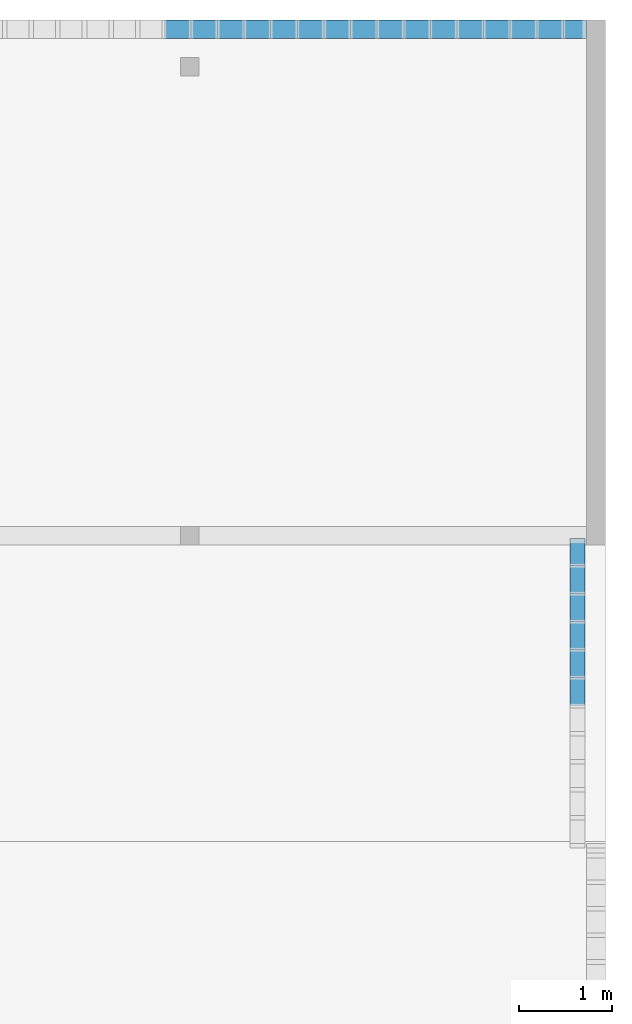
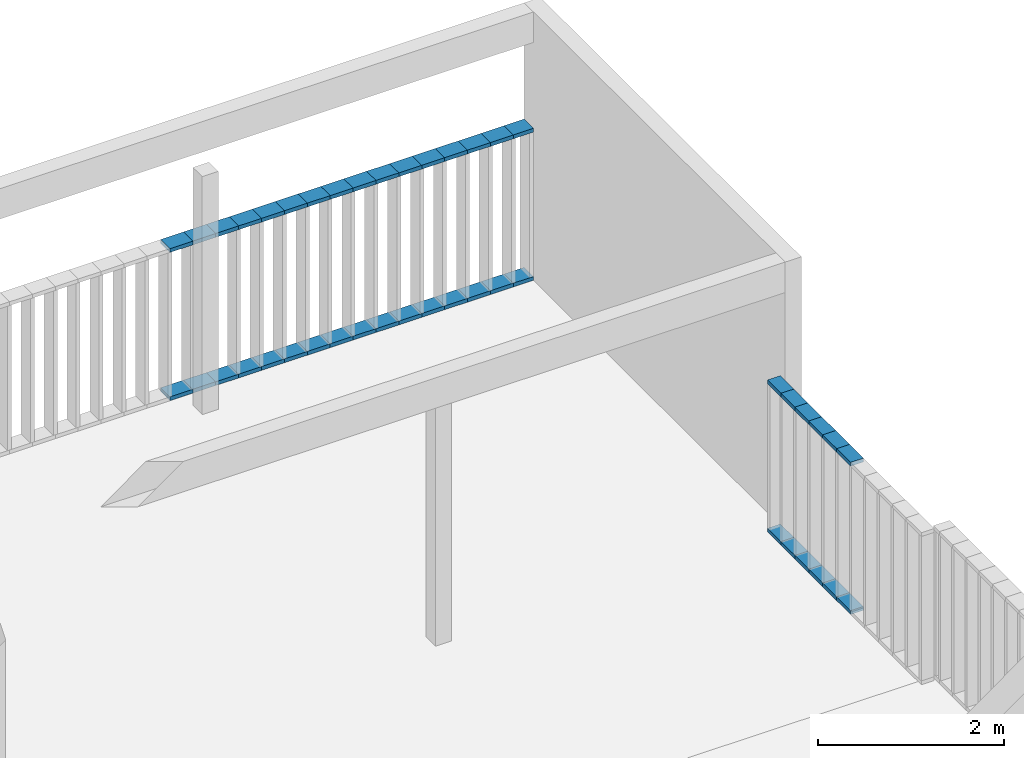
# One storey, part 57 of 240: 44 members, 2 elements without a shape of their own.
"""IFC2X3 building model written with IfcOpenShell, lengths in centimetres."""

from ifc_helpers import new_model, entity, si_unit, converted_unit, derived_unit, direction, frame, origin, origin_2d_with_axis, place, context, subcontext, project, spatial, rectangle, extrude, source, transform, mapped, material, type_object, type_shapes, element, aggregate, save


model = new_model("IFC2X3")

# Units and contexts
model_context = context("Model", 3, precision=0.001, world=origin(), true_north=direction((6.12303176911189e-17, 1.0)))
body_context = subcontext(model_context, "Body", "Model", "MODEL_VIEW")
ifc_project = project(units=[si_unit("LENGTHUNIT", "METRE", prefix="CENTI"), si_unit("AREAUNIT", "SQUARE_METRE"), si_unit("VOLUMEUNIT", "CUBIC_METRE"), converted_unit("PLANEANGLEUNIT", "DEGREE", entity("IfcRatioMeasure", 0.0174532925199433), si_unit("PLANEANGLEUNIT", "RADIAN"), dimensions=[0, 0, 0, 0, 0, 0, 0]), si_unit("MASSUNIT", "GRAM", prefix="KILO"), derived_unit("MASSDENSITYUNIT", [(si_unit("MASSUNIT", "GRAM", prefix="KILO"), 1), (si_unit("LENGTHUNIT", "METRE"), -3)]), si_unit("TIMEUNIT", "SECOND"), si_unit("FREQUENCYUNIT", "HERTZ"), si_unit("THERMODYNAMICTEMPERATUREUNIT", "DEGREE_CELSIUS"), derived_unit("THERMALTRANSMITTANCEUNIT", [(si_unit("MASSUNIT", "GRAM", prefix="KILO"), 1), (si_unit("THERMODYNAMICTEMPERATUREUNIT", "KELVIN"), -1), (si_unit("TIMEUNIT", "SECOND"), -3)]), derived_unit("VOLUMETRICFLOWRATEUNIT", [(si_unit("LENGTHUNIT", "METRE"), 3), (si_unit("TIMEUNIT", "SECOND"), -1)]), si_unit("ELECTRICCURRENTUNIT", "AMPERE"), si_unit("ELECTRICVOLTAGEUNIT", "VOLT"), si_unit("POWERUNIT", "WATT"), si_unit("FORCEUNIT", "NEWTON", prefix="KILO"), si_unit("ILLUMINANCEUNIT", "LUX"), si_unit("LUMINOUSFLUXUNIT", "LUMEN"), si_unit("LUMINOUSINTENSITYUNIT", "CANDELA"), derived_unit("USERDEFINED", [(si_unit("MASSUNIT", "GRAM", prefix="KILO"), -1), (si_unit("LENGTHUNIT", "METRE"), -2), (si_unit("TIMEUNIT", "SECOND"), 3), (si_unit("LUMINOUSFLUXUNIT", "LUMEN"), 1)]), derived_unit("LINEARVELOCITYUNIT", [(si_unit("LENGTHUNIT", "METRE"), 1), (si_unit("TIMEUNIT", "SECOND"), -1)]), si_unit("PRESSUREUNIT", "PASCAL"), derived_unit("USERDEFINED", [(si_unit("LENGTHUNIT", "METRE"), -2), (si_unit("MASSUNIT", "GRAM", prefix="KILO"), 1), (si_unit("TIMEUNIT", "SECOND"), -2)])], contexts=[model_context])

# Site, building, storey
site_placement = place(None, frame((-2781.94577612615, 7442.24238424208, 0.0)))
site = spatial("IfcSite", under=ifc_project, at=site_placement, Name="Default", CompositionType="ELEMENT")
building_placement = place(site_placement, origin())
building = spatial("IfcBuilding", under=site, at=building_placement, CompositionType="ELEMENT")
storey_placement = place(building_placement, origin())
storey = spatial("IfcBuildingStorey", under=building, at=storey_placement, Name="N00 - COO", CompositionType="ELEMENT", Elevation=0.0)

# Curtain wall, members
curtain_wall_type_1 = type_object("IfcCurtainWallType", Name="Mur-rideau:SR-Clôture", PredefinedType="NOTDEFINED")
curtain_wall_1_placement = place(building_placement, origin())
curtain_wall_1 = element("IfcCurtainWall", 1, at=curtain_wall_1_placement, inside=storey, type_object=curtain_wall_type_1, Name="Mur-rideau:SR-Clôture", ObjectType="Mur-rideau:SR-Clôture")
ifc_material = material(Name="Aluminium")
member_type_1 = type_object("IfcMemberType", Name="Epine nord (200x50 mm)", PredefinedType="MEMBER")
shared_shape_1 = source(origin(), body_context, "Body", "SweptSolid", [
    extrude(rectangle(XDim=20.0, YDim=5.0, at=origin_2d_with_axis()), frame((-2.5, 0.0, -28.5000000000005), z_axis=(0.0, 0.0, 1.0), x_axis=(0.0, -1.0, 0.0)), (0.0, 0.0, 1.0), 28.5000000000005),
])
type_shapes(member_type_1, [shared_shape_1])
member_1_placement = place(building_placement, frame((-833.999879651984, 40.0, 200.0), z_axis=(1.0, 0.0, 0.0), x_axis=(0.0, 0.0, 1.0)))
member_1 = element("IfcMember", 2, at=member_1_placement, type_object=member_type_1, material=ifc_material, Name="Meneau rectangulaire:Epine nord (200x50 mm)", ObjectType="Meneau rectangulaire:Epine nord (200x50 mm)", context=body_context, shape_type="MappedRepresentation", body=[
    mapped(shared_shape_1, transform((0.0, 0.0, 0.0), scale=1.0)),
])
member_2_placement = place(building_placement, frame((-805.499879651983, 40.0, 200.0), z_axis=(1.0, 0.0, 0.0), x_axis=(0.0, 0.0, 1.0)))
member_2 = element("IfcMember", 3, at=member_2_placement, type_object=member_type_1, material=ifc_material, Name="Meneau rectangulaire:Epine nord (200x50 mm)", ObjectType="Meneau rectangulaire:Epine nord (200x50 mm)", context=body_context, shape_type="MappedRepresentation", body=[
    mapped(shared_shape_1, transform((0.0, 0.0, 0.0), scale=1.0)),
])
member_3_placement = place(building_placement, frame((-776.999879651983, 40.0, 200.0), z_axis=(1.0, 0.0, 0.0), x_axis=(0.0, 0.0, 1.0)))
member_3 = element("IfcMember", 4, at=member_3_placement, type_object=member_type_1, material=ifc_material, Name="Meneau rectangulaire:Epine nord (200x50 mm)", ObjectType="Meneau rectangulaire:Epine nord (200x50 mm)", context=body_context, shape_type="MappedRepresentation", body=[
    mapped(shared_shape_1, transform((0.0, 0.0, 0.0), scale=1.0)),
])
member_4_placement = place(building_placement, frame((-748.499879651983, 40.0, 200.0), z_axis=(1.0, 0.0, 0.0), x_axis=(0.0, 0.0, 1.0)))
member_4 = element("IfcMember", 5, at=member_4_placement, type_object=member_type_1, material=ifc_material, Name="Meneau rectangulaire:Epine nord (200x50 mm)", ObjectType="Meneau rectangulaire:Epine nord (200x50 mm)", context=body_context, shape_type="MappedRepresentation", body=[
    mapped(shared_shape_1, transform((0.0, 0.0, 0.0), scale=1.0)),
])
member_5_placement = place(building_placement, frame((-719.999879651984, 40.0, 200.0), z_axis=(1.0, 0.0, 0.0), x_axis=(0.0, 0.0, 1.0)))
member_5 = element("IfcMember", 6, at=member_5_placement, type_object=member_type_1, material=ifc_material, Name="Meneau rectangulaire:Epine nord (200x50 mm)", ObjectType="Meneau rectangulaire:Epine nord (200x50 mm)", context=body_context, shape_type="MappedRepresentation", body=[
    mapped(shared_shape_1, transform((0.0, 0.0, 0.0), scale=1.0)),
])
member_6_placement = place(building_placement, frame((-691.499879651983, 40.0, 200.0), z_axis=(1.0, 0.0, 0.0), x_axis=(0.0, 0.0, 1.0)))
member_6 = element("IfcMember", 7, at=member_6_placement, type_object=member_type_1, material=ifc_material, Name="Meneau rectangulaire:Epine nord (200x50 mm)", ObjectType="Meneau rectangulaire:Epine nord (200x50 mm)", context=body_context, shape_type="MappedRepresentation", body=[
    mapped(shared_shape_1, transform((0.0, 0.0, 0.0), scale=1.0)),
])
member_7_placement = place(building_placement, frame((-662.999879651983, 40.0, 200.0), z_axis=(1.0, 0.0, 0.0), x_axis=(0.0, 0.0, 1.0)))
member_7 = element("IfcMember", 8, at=member_7_placement, type_object=member_type_1, material=ifc_material, Name="Meneau rectangulaire:Epine nord (200x50 mm)", ObjectType="Meneau rectangulaire:Epine nord (200x50 mm)", context=body_context, shape_type="MappedRepresentation", body=[
    mapped(shared_shape_1, transform((0.0, 0.0, 0.0), scale=1.0)),
])
member_8_placement = place(building_placement, frame((-634.499879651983, 40.0, 200.0), z_axis=(1.0, 0.0, 0.0), x_axis=(0.0, 0.0, 1.0)))
member_8 = element("IfcMember", 9, at=member_8_placement, type_object=member_type_1, material=ifc_material, Name="Meneau rectangulaire:Epine nord (200x50 mm)", ObjectType="Meneau rectangulaire:Epine nord (200x50 mm)", context=body_context, shape_type="MappedRepresentation", body=[
    mapped(shared_shape_1, transform((0.0, 0.0, 0.0), scale=1.0)),
])
member_9_placement = place(building_placement, frame((-605.999879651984, 40.0, 200.0), z_axis=(1.0, 0.0, 0.0), x_axis=(0.0, 0.0, 1.0)))
member_9 = element("IfcMember", 10, at=member_9_placement, type_object=member_type_1, material=ifc_material, Name="Meneau rectangulaire:Epine nord (200x50 mm)", ObjectType="Meneau rectangulaire:Epine nord (200x50 mm)", context=body_context, shape_type="MappedRepresentation", body=[
    mapped(shared_shape_1, transform((0.0, 0.0, 0.0), scale=1.0)),
])
member_10_placement = place(building_placement, frame((-577.499879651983, 40.0, 200.0), z_axis=(1.0, 0.0, 0.0), x_axis=(0.0, 0.0, 1.0)))
member_10 = element("IfcMember", 11, at=member_10_placement, type_object=member_type_1, material=ifc_material, Name="Meneau rectangulaire:Epine nord (200x50 mm)", ObjectType="Meneau rectangulaire:Epine nord (200x50 mm)", context=body_context, shape_type="MappedRepresentation", body=[
    mapped(shared_shape_1, transform((0.0, 0.0, 0.0), scale=1.0)),
])
member_11_placement = place(building_placement, frame((-548.999879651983, 40.0, 200.0), z_axis=(1.0, 0.0, 0.0), x_axis=(0.0, 0.0, 1.0)))
member_11 = element("IfcMember", 12, at=member_11_placement, type_object=member_type_1, material=ifc_material, Name="Meneau rectangulaire:Epine nord (200x50 mm)", ObjectType="Meneau rectangulaire:Epine nord (200x50 mm)", context=body_context, shape_type="MappedRepresentation", body=[
    mapped(shared_shape_1, transform((0.0, 0.0, 0.0), scale=1.0)),
])
member_12_placement = place(building_placement, frame((-520.499879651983, 40.0, 200.0), z_axis=(1.0, 0.0, 0.0), x_axis=(0.0, 0.0, 1.0)))
member_12 = element("IfcMember", 13, at=member_12_placement, type_object=member_type_1, material=ifc_material, Name="Meneau rectangulaire:Epine nord (200x50 mm)", ObjectType="Meneau rectangulaire:Epine nord (200x50 mm)", context=body_context, shape_type="MappedRepresentation", body=[
    mapped(shared_shape_1, transform((0.0, 0.0, 0.0), scale=1.0)),
])
member_13_placement = place(building_placement, frame((-491.999879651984, 40.0, 200.0), z_axis=(1.0, 0.0, 0.0), x_axis=(0.0, 0.0, 1.0)))
member_13 = element("IfcMember", 14, at=member_13_placement, type_object=member_type_1, material=ifc_material, Name="Meneau rectangulaire:Epine nord (200x50 mm)", ObjectType="Meneau rectangulaire:Epine nord (200x50 mm)", context=body_context, shape_type="MappedRepresentation", body=[
    mapped(shared_shape_1, transform((0.0, 0.0, 0.0), scale=1.0)),
])
member_14_placement = place(building_placement, frame((-463.499879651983, 40.0, 200.0), z_axis=(1.0, 0.0, 0.0), x_axis=(0.0, 0.0, 1.0)))
member_14 = element("IfcMember", 15, at=member_14_placement, type_object=member_type_1, material=ifc_material, Name="Meneau rectangulaire:Epine nord (200x50 mm)", ObjectType="Meneau rectangulaire:Epine nord (200x50 mm)", context=body_context, shape_type="MappedRepresentation", body=[
    mapped(shared_shape_1, transform((0.0, 0.0, 0.0), scale=1.0)),
])
member_15_placement = place(building_placement, frame((-434.999879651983, 40.0, 200.0), z_axis=(1.0, 0.0, 0.0), x_axis=(0.0, 0.0, 1.0)))
member_15 = element("IfcMember", 16, at=member_15_placement, type_object=member_type_1, material=ifc_material, Name="Meneau rectangulaire:Epine nord (200x50 mm)", ObjectType="Meneau rectangulaire:Epine nord (200x50 mm)", context=body_context, shape_type="MappedRepresentation", body=[
    mapped(shared_shape_1, transform((0.0, 0.0, 0.0), scale=1.0)),
])
member_type_2 = type_object("IfcMemberType", Name="Epine nord (200x50 mm)", PredefinedType="MEMBER")
shared_shape_2 = source(origin(), body_context, "Body", "SweptSolid", [
    extrude(rectangle(XDim=20.0, YDim=5.0, at=origin_2d_with_axis()), frame((-2.5, 0.0, -28.5000000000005), z_axis=(0.0, 0.0, 1.0), x_axis=(0.0, -1.0, 0.0)), (0.0, 0.0, 1.0), 28.5000000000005),
])
type_shapes(member_type_2, [shared_shape_2])
member_16_placement = place(building_placement, frame((-862.499879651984, 40.0, 0.0), z_axis=(-1.0, 0.0, 0.0), x_axis=(0.0, 0.0, -1.0)))
member_16 = element("IfcMember", 17, at=member_16_placement, type_object=member_type_2, material=ifc_material, Name="Meneau rectangulaire:Epine nord (200x50 mm)", ObjectType="Meneau rectangulaire:Epine nord (200x50 mm)", context=body_context, shape_type="MappedRepresentation", body=[
    mapped(shared_shape_2, transform((0.0, 0.0, 0.0), scale=1.0)),
])
member_17_placement = place(building_placement, frame((-833.999879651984, 40.0, 0.0), z_axis=(-1.0, 0.0, 0.0), x_axis=(0.0, 0.0, -1.0)))
member_17 = element("IfcMember", 18, at=member_17_placement, type_object=member_type_2, material=ifc_material, Name="Meneau rectangulaire:Epine nord (200x50 mm)", ObjectType="Meneau rectangulaire:Epine nord (200x50 mm)", context=body_context, shape_type="MappedRepresentation", body=[
    mapped(shared_shape_2, transform((0.0, 0.0, 0.0), scale=1.0)),
])
member_18_placement = place(building_placement, frame((-805.499879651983, 40.0, 0.0), z_axis=(-1.0, 0.0, 0.0), x_axis=(0.0, 0.0, -1.0)))
member_18 = element("IfcMember", 19, at=member_18_placement, type_object=member_type_2, material=ifc_material, Name="Meneau rectangulaire:Epine nord (200x50 mm)", ObjectType="Meneau rectangulaire:Epine nord (200x50 mm)", context=body_context, shape_type="MappedRepresentation", body=[
    mapped(shared_shape_2, transform((0.0, 0.0, 0.0), scale=1.0)),
])
member_19_placement = place(building_placement, frame((-776.999879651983, 40.0, 0.0), z_axis=(-1.0, 0.0, 0.0), x_axis=(0.0, 0.0, -1.0)))
member_19 = element("IfcMember", 20, at=member_19_placement, type_object=member_type_2, material=ifc_material, Name="Meneau rectangulaire:Epine nord (200x50 mm)", ObjectType="Meneau rectangulaire:Epine nord (200x50 mm)", context=body_context, shape_type="MappedRepresentation", body=[
    mapped(shared_shape_2, transform((0.0, 0.0, 0.0), scale=1.0)),
])
member_20_placement = place(building_placement, frame((-748.499879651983, 40.0, 0.0), z_axis=(-1.0, 0.0, 0.0), x_axis=(0.0, 0.0, -1.0)))
member_20 = element("IfcMember", 21, at=member_20_placement, type_object=member_type_2, material=ifc_material, Name="Meneau rectangulaire:Epine nord (200x50 mm)", ObjectType="Meneau rectangulaire:Epine nord (200x50 mm)", context=body_context, shape_type="MappedRepresentation", body=[
    mapped(shared_shape_2, transform((0.0, 0.0, 0.0), scale=1.0)),
])
member_21_placement = place(building_placement, frame((-719.999879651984, 40.0, 0.0), z_axis=(-1.0, 0.0, 0.0), x_axis=(0.0, 0.0, -1.0)))
member_21 = element("IfcMember", 22, at=member_21_placement, type_object=member_type_2, material=ifc_material, Name="Meneau rectangulaire:Epine nord (200x50 mm)", ObjectType="Meneau rectangulaire:Epine nord (200x50 mm)", context=body_context, shape_type="MappedRepresentation", body=[
    mapped(shared_shape_2, transform((0.0, 0.0, 0.0), scale=1.0)),
])
member_22_placement = place(building_placement, frame((-691.499879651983, 40.0, 0.0), z_axis=(-1.0, 0.0, 0.0), x_axis=(0.0, 0.0, -1.0)))
member_22 = element("IfcMember", 23, at=member_22_placement, type_object=member_type_2, material=ifc_material, Name="Meneau rectangulaire:Epine nord (200x50 mm)", ObjectType="Meneau rectangulaire:Epine nord (200x50 mm)", context=body_context, shape_type="MappedRepresentation", body=[
    mapped(shared_shape_2, transform((0.0, 0.0, 0.0), scale=1.0)),
])
member_23_placement = place(building_placement, frame((-662.999879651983, 40.0, 0.0), z_axis=(-1.0, 0.0, 0.0), x_axis=(0.0, 0.0, -1.0)))
member_23 = element("IfcMember", 24, at=member_23_placement, type_object=member_type_2, material=ifc_material, Name="Meneau rectangulaire:Epine nord (200x50 mm)", ObjectType="Meneau rectangulaire:Epine nord (200x50 mm)", context=body_context, shape_type="MappedRepresentation", body=[
    mapped(shared_shape_2, transform((0.0, 0.0, 0.0), scale=1.0)),
])
member_24_placement = place(building_placement, frame((-634.499879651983, 40.0, 0.0), z_axis=(-1.0, 0.0, 0.0), x_axis=(0.0, 0.0, -1.0)))
member_24 = element("IfcMember", 25, at=member_24_placement, type_object=member_type_2, material=ifc_material, Name="Meneau rectangulaire:Epine nord (200x50 mm)", ObjectType="Meneau rectangulaire:Epine nord (200x50 mm)", context=body_context, shape_type="MappedRepresentation", body=[
    mapped(shared_shape_2, transform((0.0, 0.0, 0.0), scale=1.0)),
])
member_25_placement = place(building_placement, frame((-605.999879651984, 40.0, 0.0), z_axis=(-1.0, 0.0, 0.0), x_axis=(0.0, 0.0, -1.0)))
member_25 = element("IfcMember", 26, at=member_25_placement, type_object=member_type_2, material=ifc_material, Name="Meneau rectangulaire:Epine nord (200x50 mm)", ObjectType="Meneau rectangulaire:Epine nord (200x50 mm)", context=body_context, shape_type="MappedRepresentation", body=[
    mapped(shared_shape_2, transform((0.0, 0.0, 0.0), scale=1.0)),
])
member_26_placement = place(building_placement, frame((-577.499879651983, 40.0, 0.0), z_axis=(-1.0, 0.0, 0.0), x_axis=(0.0, 0.0, -1.0)))
member_26 = element("IfcMember", 27, at=member_26_placement, type_object=member_type_2, material=ifc_material, Name="Meneau rectangulaire:Epine nord (200x50 mm)", ObjectType="Meneau rectangulaire:Epine nord (200x50 mm)", context=body_context, shape_type="MappedRepresentation", body=[
    mapped(shared_shape_2, transform((0.0, 0.0, 0.0), scale=1.0)),
])
member_27_placement = place(building_placement, frame((-548.999879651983, 40.0, 0.0), z_axis=(-1.0, 0.0, 0.0), x_axis=(0.0, 0.0, -1.0)))
member_27 = element("IfcMember", 28, at=member_27_placement, type_object=member_type_2, material=ifc_material, Name="Meneau rectangulaire:Epine nord (200x50 mm)", ObjectType="Meneau rectangulaire:Epine nord (200x50 mm)", context=body_context, shape_type="MappedRepresentation", body=[
    mapped(shared_shape_2, transform((0.0, 0.0, 0.0), scale=1.0)),
])
member_28_placement = place(building_placement, frame((-520.499879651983, 40.0, 0.0), z_axis=(-1.0, 0.0, 0.0), x_axis=(0.0, 0.0, -1.0)))
member_28 = element("IfcMember", 29, at=member_28_placement, type_object=member_type_2, material=ifc_material, Name="Meneau rectangulaire:Epine nord (200x50 mm)", ObjectType="Meneau rectangulaire:Epine nord (200x50 mm)", context=body_context, shape_type="MappedRepresentation", body=[
    mapped(shared_shape_2, transform((0.0, 0.0, 0.0), scale=1.0)),
])
member_29_placement = place(building_placement, frame((-491.999879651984, 40.0, 0.0), z_axis=(-1.0, 0.0, 0.0), x_axis=(0.0, 0.0, -1.0)))
member_29 = element("IfcMember", 30, at=member_29_placement, type_object=member_type_2, material=ifc_material, Name="Meneau rectangulaire:Epine nord (200x50 mm)", ObjectType="Meneau rectangulaire:Epine nord (200x50 mm)", context=body_context, shape_type="MappedRepresentation", body=[
    mapped(shared_shape_2, transform((0.0, 0.0, 0.0), scale=1.0)),
])
member_30_placement = place(building_placement, frame((-463.499879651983, 40.0, 0.0), z_axis=(-1.0, 0.0, 0.0), x_axis=(0.0, 0.0, -1.0)))
member_30 = element("IfcMember", 31, at=member_30_placement, type_object=member_type_2, material=ifc_material, Name="Meneau rectangulaire:Epine nord (200x50 mm)", ObjectType="Meneau rectangulaire:Epine nord (200x50 mm)", context=body_context, shape_type="MappedRepresentation", body=[
    mapped(shared_shape_2, transform((0.0, 0.0, 0.0), scale=1.0)),
])
member_type_3 = type_object("IfcMemberType", Name="Epine nord (200x50 mm)", PredefinedType="MEMBER")
shared_shape_3 = source(origin(), body_context, "Body", "SweptSolid", [
    extrude(rectangle(XDim=20.0, YDim=5.0, at=origin_2d_with_axis()), frame((-2.5, 0.0, -24.9999968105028), z_axis=(0.0, 0.0, 1.0), x_axis=(0.0, -1.0, 0.0)), (0.0, 0.0, 1.0), 24.9999968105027),
])
type_shapes(member_type_3, [shared_shape_3])
member_31_placement = place(building_placement, frame((-409.99988284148, 40.0, 200.0), z_axis=(1.0, 0.0, 0.0), x_axis=(0.0, 0.0, 1.0)))
member_31 = element("IfcMember", 32, at=member_31_placement, type_object=member_type_3, material=ifc_material, Name="Meneau rectangulaire:Epine nord (200x50 mm)", ObjectType="Meneau rectangulaire:Epine nord (200x50 mm)", context=body_context, shape_type="MappedRepresentation", body=[
    mapped(shared_shape_3, transform((0.0, 0.0, 0.0), scale=1.0)),
])
member_type_4 = type_object("IfcMemberType", Name="Epine nord (200x50 mm)", PredefinedType="MEMBER")
shared_shape_4 = source(origin(), body_context, "Body", "SweptSolid", [
    extrude(rectangle(XDim=20.0, YDim=5.0, at=origin_2d_with_axis()), frame((-2.5, 0.0, -24.9999968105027), z_axis=(0.0, 0.0, 1.0), x_axis=(0.0, -1.0, 0.0)), (0.0, 0.0, 1.0), 24.9999968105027),
])
type_shapes(member_type_4, [shared_shape_4])
member_32_placement = place(building_placement, frame((-434.999879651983, 40.0, 0.0), z_axis=(-1.0, 0.0, 0.0), x_axis=(0.0, 0.0, -1.0)))
member_32 = element("IfcMember", 33, at=member_32_placement, type_object=member_type_4, material=ifc_material, Name="Meneau rectangulaire:Epine nord (200x50 mm)", ObjectType="Meneau rectangulaire:Epine nord (200x50 mm)", context=body_context, shape_type="MappedRepresentation", body=[
    mapped(shared_shape_4, transform((0.0, 0.0, 0.0), scale=1.0)),
])
aggregate(curtain_wall_1, [member_1, member_2, member_3, member_4, member_5, member_6, member_7, member_8, member_16, member_17, member_18, member_19, member_20, member_21, member_22, member_23, member_24, member_31, member_25, member_9, member_10, member_11, member_12, member_13, member_26, member_27, member_28, member_29, member_14, member_15, member_30, member_32])

curtain_wall_type_2 = type_object("IfcCurtainWallType", Name="Mur-SR", PredefinedType="NOTDEFINED")
curtain_wall_2_placement = place(storey_placement, origin())
curtain_wall_2 = element("IfcCurtainWall", 34, at=curtain_wall_2_placement, inside=storey, type_object=curtain_wall_type_2, Name="Mur-SR", ObjectType="Mur-SR")
member_type_5 = type_object("IfcMemberType", Name="Epine nord (160x50 mm)", PredefinedType="MEMBER")
shared_shape_5 = source(origin(), body_context, "Body", "SweptSolid", [
    extrude(rectangle(XDim=16.0, YDim=5.0, at=origin_2d_with_axis()), frame((-2.5, 0.0, -30.0), z_axis=(0.0, 0.0, 1.0), x_axis=(0.0, -1.0, 0.0)), (0.0, 0.0, 1.0), 30.0000000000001),
])
type_shapes(member_type_5, [shared_shape_5])
member_33_placement = place(storey_placement, frame((-419.999882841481, -654.548500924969, 200.0), z_axis=(0.0, 1.0, 0.0), x_axis=(0.0, 0.0, 1.0)))
member_33 = element("IfcMember", 35, at=member_33_placement, type_object=member_type_5, material=ifc_material, Name="Meneau rectangulaire:Epine nord (160x50 mm)", ObjectType="Meneau rectangulaire:Epine nord (160x50 mm)", context=body_context, shape_type="MappedRepresentation", body=[
    mapped(shared_shape_5, transform((0.0, 0.0, 0.0), scale=1.0)),
])
member_34_placement = place(storey_placement, frame((-419.999882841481, -624.548500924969, 200.0), z_axis=(0.0, 1.0, 0.0), x_axis=(0.0, 0.0, 1.0)))
member_34 = element("IfcMember", 36, at=member_34_placement, type_object=member_type_5, material=ifc_material, Name="Meneau rectangulaire:Epine nord (160x50 mm)", ObjectType="Meneau rectangulaire:Epine nord (160x50 mm)", context=body_context, shape_type="MappedRepresentation", body=[
    mapped(shared_shape_5, transform((0.0, 0.0, 0.0), scale=1.0)),
])
member_35_placement = place(storey_placement, frame((-419.999882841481, -594.548500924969, 200.0), z_axis=(0.0, 1.0, 0.0), x_axis=(0.0, 0.0, 1.0)))
member_35 = element("IfcMember", 37, at=member_35_placement, type_object=member_type_5, material=ifc_material, Name="Meneau rectangulaire:Epine nord (160x50 mm)", ObjectType="Meneau rectangulaire:Epine nord (160x50 mm)", context=body_context, shape_type="MappedRepresentation", body=[
    mapped(shared_shape_5, transform((0.0, 0.0, 0.0), scale=1.0)),
])
member_36_placement = place(storey_placement, frame((-419.999882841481, -564.548500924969, 200.0), z_axis=(0.0, 1.0, 0.0), x_axis=(0.0, 0.0, 1.0)))
member_36 = element("IfcMember", 38, at=member_36_placement, type_object=member_type_5, material=ifc_material, Name="Meneau rectangulaire:Epine nord (160x50 mm)", ObjectType="Meneau rectangulaire:Epine nord (160x50 mm)", context=body_context, shape_type="MappedRepresentation", body=[
    mapped(shared_shape_5, transform((0.0, 0.0, 0.0), scale=1.0)),
])
member_37_placement = place(storey_placement, frame((-419.999882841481, -534.548500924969, 200.0), z_axis=(0.0, 1.0, 0.0), x_axis=(0.0, 0.0, 1.0)))
member_37 = element("IfcMember", 39, at=member_37_placement, type_object=member_type_5, material=ifc_material, Name="Meneau rectangulaire:Epine nord (160x50 mm)", ObjectType="Meneau rectangulaire:Epine nord (160x50 mm)", context=body_context, shape_type="MappedRepresentation", body=[
    mapped(shared_shape_5, transform((0.0, 0.0, 0.0), scale=1.0)),
])
member_type_6 = type_object("IfcMemberType", Name="Epine nord (160x50 mm)", PredefinedType="MEMBER")
shared_shape_6 = source(origin(), body_context, "Body", "SweptSolid", [
    extrude(rectangle(XDim=16.0, YDim=5.0, at=origin_2d_with_axis()), frame((-2.5, 0.0, -30.0), z_axis=(0.0, 0.0, 1.0), x_axis=(0.0, -1.0, 0.0)), (0.0, 0.0, 1.0), 30.0000000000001),
])
type_shapes(member_type_6, [shared_shape_6])
member_38_placement = place(storey_placement, frame((-419.999882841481, -684.548500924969, 0.0), z_axis=(0.0, -1.0, 0.0), x_axis=(0.0, 0.0, -1.0)))
member_38 = element("IfcMember", 40, at=member_38_placement, type_object=member_type_6, material=ifc_material, Name="Meneau rectangulaire:Epine nord (160x50 mm)", ObjectType="Meneau rectangulaire:Epine nord (160x50 mm)", context=body_context, shape_type="MappedRepresentation", body=[
    mapped(shared_shape_6, transform((0.0, 0.0, 0.0), scale=1.0)),
])
member_39_placement = place(storey_placement, frame((-419.999882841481, -654.548500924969, 0.0), z_axis=(0.0, -1.0, 0.0), x_axis=(0.0, 0.0, -1.0)))
member_39 = element("IfcMember", 41, at=member_39_placement, type_object=member_type_6, material=ifc_material, Name="Meneau rectangulaire:Epine nord (160x50 mm)", ObjectType="Meneau rectangulaire:Epine nord (160x50 mm)", context=body_context, shape_type="MappedRepresentation", body=[
    mapped(shared_shape_6, transform((0.0, 0.0, 0.0), scale=1.0)),
])
member_40_placement = place(storey_placement, frame((-419.999882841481, -624.548500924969, 0.0), z_axis=(0.0, -1.0, 0.0), x_axis=(0.0, 0.0, -1.0)))
member_40 = element("IfcMember", 42, at=member_40_placement, type_object=member_type_6, material=ifc_material, Name="Meneau rectangulaire:Epine nord (160x50 mm)", ObjectType="Meneau rectangulaire:Epine nord (160x50 mm)", context=body_context, shape_type="MappedRepresentation", body=[
    mapped(shared_shape_6, transform((0.0, 0.0, 0.0), scale=1.0)),
])
member_41_placement = place(storey_placement, frame((-419.999882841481, -594.548500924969, 0.0), z_axis=(0.0, -1.0, 0.0), x_axis=(0.0, 0.0, -1.0)))
member_41 = element("IfcMember", 43, at=member_41_placement, type_object=member_type_6, material=ifc_material, Name="Meneau rectangulaire:Epine nord (160x50 mm)", ObjectType="Meneau rectangulaire:Epine nord (160x50 mm)", context=body_context, shape_type="MappedRepresentation", body=[
    mapped(shared_shape_6, transform((0.0, 0.0, 0.0), scale=1.0)),
])
member_42_placement = place(storey_placement, frame((-419.999882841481, -564.548500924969, 0.0), z_axis=(0.0, -1.0, 0.0), x_axis=(0.0, 0.0, -1.0)))
member_42 = element("IfcMember", 44, at=member_42_placement, type_object=member_type_6, material=ifc_material, Name="Meneau rectangulaire:Epine nord (160x50 mm)", ObjectType="Meneau rectangulaire:Epine nord (160x50 mm)", context=body_context, shape_type="MappedRepresentation", body=[
    mapped(shared_shape_6, transform((0.0, 0.0, 0.0), scale=1.0)),
])
member_type_7 = type_object("IfcMemberType", Name="Epine nord (160x50 mm)", PredefinedType="MEMBER")
shared_shape_7 = source(origin(), body_context, "Body", "SweptSolid", [
    extrude(rectangle(XDim=16.0, YDim=5.0, at=origin_2d_with_axis()), frame((-2.5, 0.0, -29.0), z_axis=(0.0, 0.0, 1.0), x_axis=(0.0, -1.0, 0.0)), (0.0, 0.0, 1.0), 28.99999996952),
])
type_shapes(member_type_7, [shared_shape_7])
member_43_placement = place(storey_placement, frame((-419.999882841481, -534.548500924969, 0.0), z_axis=(0.0, -1.0, 0.0), x_axis=(0.0, 0.0, -1.0)))
member_43 = element("IfcMember", 45, at=member_43_placement, type_object=member_type_7, material=ifc_material, Name="Meneau rectangulaire:Epine nord (160x50 mm)", ObjectType="Meneau rectangulaire:Epine nord (160x50 mm)", context=body_context, shape_type="MappedRepresentation", body=[
    mapped(shared_shape_7, transform((0.0, 0.0, 0.0), scale=1.0)),
])
member_type_8 = type_object("IfcMemberType", Name="Epine nord (160x50 mm)", PredefinedType="MEMBER")
shared_shape_8 = source(origin(), body_context, "Body", "SweptSolid", [
    extrude(rectangle(XDim=16.0, YDim=5.0, at=origin_2d_with_axis()), frame((-2.5, 0.0, -29.0), z_axis=(0.0, 0.0, 1.0), x_axis=(0.0, -1.0, 0.0)), (0.0, 0.0, 1.0), 28.99999996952),
])
type_shapes(member_type_8, [shared_shape_8])
member_44_placement = place(storey_placement, frame((-419.999882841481, -505.548500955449, 200.0), z_axis=(0.0, 1.0, 0.0), x_axis=(0.0, 0.0, 1.0)))
member_44 = element("IfcMember", 46, at=member_44_placement, type_object=member_type_8, material=ifc_material, Name="Meneau rectangulaire:Epine nord (160x50 mm)", ObjectType="Meneau rectangulaire:Epine nord (160x50 mm)", context=body_context, shape_type="MappedRepresentation", body=[
    mapped(shared_shape_8, transform((0.0, 0.0, 0.0), scale=1.0)),
])
aggregate(curtain_wall_2, [member_33, member_38, member_39, member_40, member_41, member_34, member_35, member_36, member_42, member_37, member_43, member_44])

save(model, "model.ifc")
